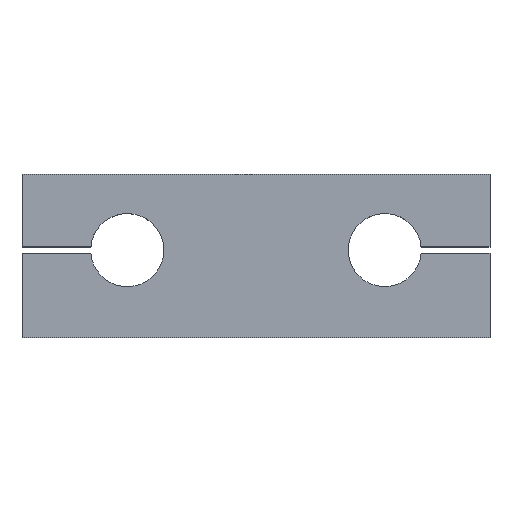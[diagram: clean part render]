
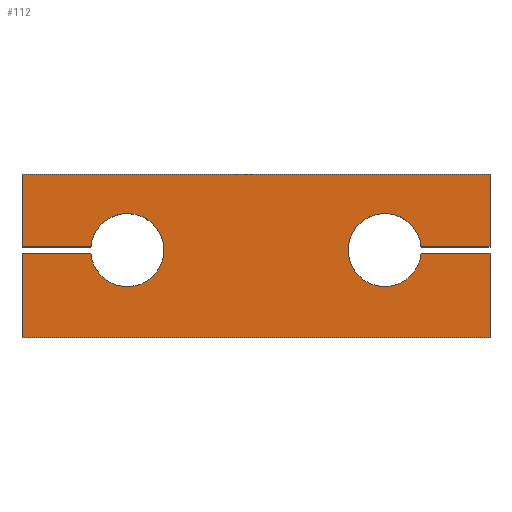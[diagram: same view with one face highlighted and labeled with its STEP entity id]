
A CAD part, top view. The second image highlights one B-rep face of the part: STEP entity #112.
In plain terms, the highlighted planar face has unit normal (0, 0, 1).
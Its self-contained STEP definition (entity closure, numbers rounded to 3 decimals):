
#13 = EDGE_CURVE ( 'NONE', #120, #653, #114, .T. ) ;
#14 = CARTESIAN_POINT ( 'NONE',  ( 56.454, 3.075, 12.5 ) ) ;
#22 = CIRCLE ( 'NONE', #689, 12.5 ) ;
#49 = EDGE_CURVE ( 'NONE', #306, #453, #785, .T. ) ;
#56 = ORIENTED_EDGE ( 'NONE', *, *, #936, .T. ) ;
#61 = VECTOR ( 'NONE', #72, 1000. ) ;
#72 = DIRECTION ( 'NONE',  ( 1., 0., 0. ) ) ;
#77 = DIRECTION ( 'NONE',  ( 1., 0., 0. ) ) ;
#87 = CARTESIAN_POINT ( 'NONE',  ( 56.454, 0.925, 12.5 ) ) ;
#88 = DIRECTION ( 'NONE',  ( 0., -1., 0. ) ) ;
#93 = CARTESIAN_POINT ( 'NONE',  ( 80., 3.075, 12.5 ) ) ;
#104 = DIRECTION ( 'NONE',  ( 0., 0., 1. ) ) ;
#106 = ORIENTED_EDGE ( 'NONE', *, *, #667, .F. ) ;
#112 = ADVANCED_FACE ( 'NONE', ( #1061 ), #968, .T. ) ;
#114 = LINE ( 'NONE', #280, #843 ) ;
#120 = VERTEX_POINT ( 'NONE', #324 ) ;
#126 = CARTESIAN_POINT ( 'NONE',  ( -80., -28., 12.5 ) ) ;
#130 = CARTESIAN_POINT ( 'NONE',  ( 80., 28., 12.5 ) ) ;
#132 = DIRECTION ( 'NONE',  ( 0., -1., 0. ) ) ;
#159 = LINE ( 'NONE', #930, #61 ) ;
#169 = CARTESIAN_POINT ( 'NONE',  ( -56.454, 0.925, 12.5 ) ) ;
#175 = EDGE_CURVE ( 'NONE', #587, #653, #386, .T. ) ;
#180 = VERTEX_POINT ( 'NONE', #405 ) ;
#198 = DIRECTION ( 'NONE',  ( 0., 0., 1. ) ) ;
#204 = CARTESIAN_POINT ( 'NONE',  ( 43., 3.075, 12.5 ) ) ;
#258 = EDGE_CURVE ( 'NONE', #329, #443, #691, .T. ) ;
#262 = VECTOR ( 'NONE', #799, 1000. ) ;
#267 = VERTEX_POINT ( 'NONE', #332 ) ;
#280 = CARTESIAN_POINT ( 'NONE',  ( -80., 28., 12.5 ) ) ;
#291 = CARTESIAN_POINT ( 'NONE',  ( -80., 28., 12.5 ) ) ;
#292 = VERTEX_POINT ( 'NONE', #169 ) ;
#293 = CARTESIAN_POINT ( 'NONE',  ( 0., 0., 12.5 ) ) ;
#306 = VERTEX_POINT ( 'NONE', #93 ) ;
#324 = CARTESIAN_POINT ( 'NONE',  ( -80., 28., 12.5 ) ) ;
#329 = VERTEX_POINT ( 'NONE', #87 ) ;
#332 = CARTESIAN_POINT ( 'NONE',  ( -31.5, 2., 12.5 ) ) ;
#333 = CARTESIAN_POINT ( 'NONE',  ( -44., 2., 12.5 ) ) ;
#346 = LINE ( 'NONE', #614, #904 ) ;
#347 = ORIENTED_EDGE ( 'NONE', *, *, #424, .T. ) ;
#386 = LINE ( 'NONE', #833, #762 ) ;
#395 = ORIENTED_EDGE ( 'NONE', *, *, #13, .T. ) ;
#399 = AXIS2_PLACEMENT_3D ( 'NONE', #333, #423, #77 ) ;
#405 = CARTESIAN_POINT ( 'NONE',  ( 80., -28., 12.5 ) ) ;
#423 = DIRECTION ( 'NONE',  ( 0., 0., 1. ) ) ;
#424 = EDGE_CURVE ( 'NONE', #180, #443, #553, .T. ) ;
#436 = ORIENTED_EDGE ( 'NONE', *, *, #49, .F. ) ;
#443 = VERTEX_POINT ( 'NONE', #874 ) ;
#453 = VERTEX_POINT ( 'NONE', #14 ) ;
#454 = AXIS2_PLACEMENT_3D ( 'NONE', #293, #198, #631 ) ;
#491 = CIRCLE ( 'NONE', #632, 12.5 ) ;
#499 = EDGE_LOOP ( 'NONE', ( #583, #106, #577, #940, #701, #1039, #347, #967, #1047, #436, #56, #798, #395 ) ) ;
#518 = DIRECTION ( 'NONE',  ( -1., 0., 0. ) ) ;
#542 = VERTEX_POINT ( 'NONE', #126 ) ;
#546 = CARTESIAN_POINT ( 'NONE',  ( -80., 0.925, 12.5 ) ) ;
#553 = LINE ( 'NONE', #886, #1096 ) ;
#555 = DIRECTION ( 'NONE',  ( 0., 0., 1. ) ) ;
#561 = LINE ( 'NONE', #901, #1033 ) ;
#577 = ORIENTED_EDGE ( 'NONE', *, *, #914, .F. ) ;
#580 = DIRECTION ( 'NONE',  ( -1., 0., 0. ) ) ;
#581 = VECTOR ( 'NONE', #908, 1000. ) ;
#583 = ORIENTED_EDGE ( 'NONE', *, *, #175, .F. ) ;
#587 = VERTEX_POINT ( 'NONE', #851 ) ;
#614 = CARTESIAN_POINT ( 'NONE',  ( -80., 28., 12.5 ) ) ;
#629 = DIRECTION ( 'NONE',  ( 1., 0., 0. ) ) ;
#631 = DIRECTION ( 'NONE',  ( 1., 0., 0. ) ) ;
#632 = AXIS2_PLACEMENT_3D ( 'NONE', #637, #555, #664 ) ;
#637 = CARTESIAN_POINT ( 'NONE',  ( -44., 2., 12.5 ) ) ;
#653 = VERTEX_POINT ( 'NONE', #1101 ) ;
#664 = DIRECTION ( 'NONE',  ( 1., 0., 0. ) ) ;
#667 = EDGE_CURVE ( 'NONE', #267, #587, #812, .T. ) ;
#689 = AXIS2_PLACEMENT_3D ( 'NONE', #875, #104, #629 ) ;
#691 = LINE ( 'NONE', #948, #1074 ) ;
#693 = EDGE_CURVE ( 'NONE', #902, #292, #159, .T. ) ;
#699 = VERTEX_POINT ( 'NONE', #766 ) ;
#701 = ORIENTED_EDGE ( 'NONE', *, *, #760, .T. ) ;
#715 = LINE ( 'NONE', #291, #1016 ) ;
#760 = EDGE_CURVE ( 'NONE', #902, #542, #346, .T. ) ;
#762 = VECTOR ( 'NONE', #580, 1000. ) ;
#766 = CARTESIAN_POINT ( 'NONE',  ( 80., 28., 12.5 ) ) ;
#781 = DIRECTION ( 'NONE',  ( 0., 1., 0. ) ) ;
#785 = LINE ( 'NONE', #204, #262 ) ;
#793 = DIRECTION ( 'NONE',  ( 1., 0., 0. ) ) ;
#798 = ORIENTED_EDGE ( 'NONE', *, *, #804, .T. ) ;
#799 = DIRECTION ( 'NONE',  ( -1., 0., 0. ) ) ;
#804 = EDGE_CURVE ( 'NONE', #699, #120, #715, .T. ) ;
#807 = EDGE_CURVE ( 'NONE', #453, #329, #22, .T. ) ;
#812 = CIRCLE ( 'NONE', #399, 12.5 ) ;
#833 = CARTESIAN_POINT ( 'NONE',  ( -80., 3.075, 12.5 ) ) ;
#843 = VECTOR ( 'NONE', #132, 1000. ) ;
#851 = CARTESIAN_POINT ( 'NONE',  ( -56.454, 3.075, 12.5 ) ) ;
#853 = DIRECTION ( 'NONE',  ( 1., 0., 0. ) ) ;
#874 = CARTESIAN_POINT ( 'NONE',  ( 80., 0.925, 12.5 ) ) ;
#875 = CARTESIAN_POINT ( 'NONE',  ( 44., 2., 12.5 ) ) ;
#886 = CARTESIAN_POINT ( 'NONE',  ( 80., 28., 12.5 ) ) ;
#901 = CARTESIAN_POINT ( 'NONE',  ( -80., -28., 12.5 ) ) ;
#902 = VERTEX_POINT ( 'NONE', #546 ) ;
#904 = VECTOR ( 'NONE', #88, 1000. ) ;
#908 = DIRECTION ( 'NONE',  ( 0., 1., 0. ) ) ;
#914 = EDGE_CURVE ( 'NONE', #292, #267, #491, .T. ) ;
#915 = LINE ( 'NONE', #130, #581 ) ;
#930 = CARTESIAN_POINT ( 'NONE',  ( -80., 0.925, 12.5 ) ) ;
#936 = EDGE_CURVE ( 'NONE', #306, #699, #915, .T. ) ;
#940 = ORIENTED_EDGE ( 'NONE', *, *, #693, .F. ) ;
#948 = CARTESIAN_POINT ( 'NONE',  ( 43., 0.925, 12.5 ) ) ;
#967 = ORIENTED_EDGE ( 'NONE', *, *, #258, .F. ) ;
#968 = PLANE ( 'NONE',  #454 ) ;
#1016 = VECTOR ( 'NONE', #518, 1000. ) ;
#1033 = VECTOR ( 'NONE', #793, 1000. ) ;
#1039 = ORIENTED_EDGE ( 'NONE', *, *, #1081, .T. ) ;
#1047 = ORIENTED_EDGE ( 'NONE', *, *, #807, .F. ) ;
#1061 = FACE_OUTER_BOUND ( 'NONE', #499, .T. ) ;
#1074 = VECTOR ( 'NONE', #853, 1000. ) ;
#1081 = EDGE_CURVE ( 'NONE', #542, #180, #561, .T. ) ;
#1096 = VECTOR ( 'NONE', #781, 1000. ) ;
#1101 = CARTESIAN_POINT ( 'NONE',  ( -80., 3.075, 12.5 ) ) ;
